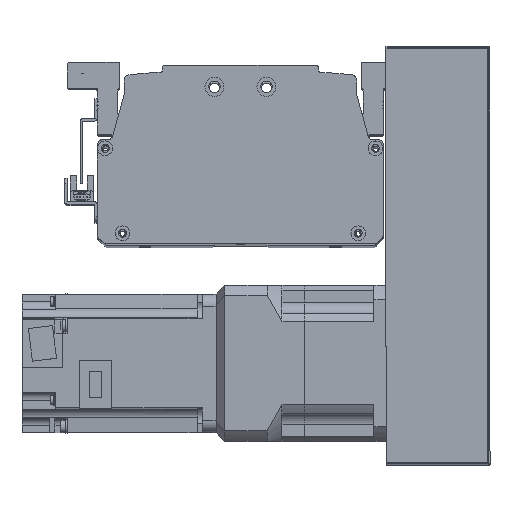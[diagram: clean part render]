
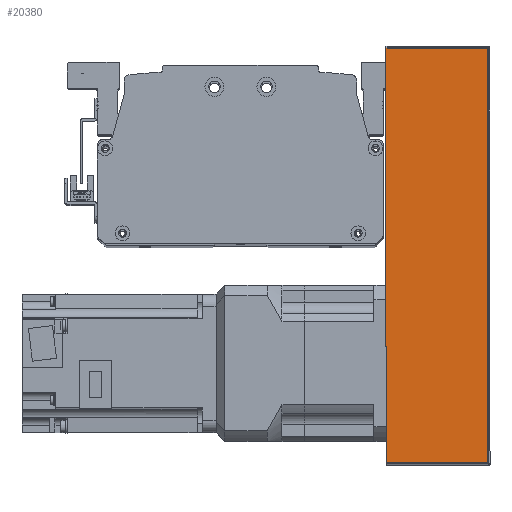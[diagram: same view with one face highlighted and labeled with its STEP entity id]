
A CAD part, top view. The second image highlights one B-rep face of the part: STEP entity #20380.
In plain terms, the highlighted planar face has unit normal (0, 0, 1) as drawn and (0, 1, 0) by its records, which use the part's own axes.
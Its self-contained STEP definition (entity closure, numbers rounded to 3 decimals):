
#542=PLANE('',#22184);
#1673=LINE('',#32345,#3333);
#1692=LINE('',#32429,#3352);
#1694=LINE('',#32439,#3354);
#1695=LINE('',#32441,#3355);
#3333=VECTOR('',#26282,10.);
#3352=VECTOR('',#26395,10.);
#3354=VECTOR('',#26409,10.);
#3355=VECTOR('',#26412,10.);
#5291=FACE_OUTER_BOUND('',#6671,.T.);
#6671=EDGE_LOOP('',(#15992,#15993,#15994,#15995));
#9487=VERTEX_POINT('',#32342);
#9488=VERTEX_POINT('',#32344);
#9505=VERTEX_POINT('',#32423);
#9508=VERTEX_POINT('',#32435);
#11819=EDGE_CURVE('',#9488,#9487,#1673,.T.);
#11862=EDGE_CURVE('',#9505,#9488,#1692,.T.);
#11867=EDGE_CURVE('',#9487,#9508,#1694,.T.);
#11868=EDGE_CURVE('',#9508,#9505,#1695,.T.);
#15992=ORIENTED_EDGE('',*,*,#11862,.T.);
#15993=ORIENTED_EDGE('',*,*,#11819,.T.);
#15994=ORIENTED_EDGE('',*,*,#11867,.T.);
#15995=ORIENTED_EDGE('',*,*,#11868,.T.);
#20380=ADVANCED_FACE('',(#5291),#542,.F.);
#22184=AXIS2_PLACEMENT_3D('',#32448,#26421,#26422);
#26282=DIRECTION('',(-1.,0.,0.));
#26395=DIRECTION('',(0.,0.,-1.));
#26409=DIRECTION('',(0.,0.,1.));
#26412=DIRECTION('',(1.,0.,0.));
#26421=DIRECTION('center_axis',(0.,-1.,0.));
#26422=DIRECTION('ref_axis',(-1.,0.,0.));
#32342=CARTESIAN_POINT('',(-120.,51.,-30.));
#32344=CARTESIAN_POINT('',(120.,51.,-30.));
#32345=CARTESIAN_POINT('',(-121.,51.,-30.));
#32423=CARTESIAN_POINT('',(120.,51.,29.));
#32429=CARTESIAN_POINT('',(120.,51.,0.));
#32435=CARTESIAN_POINT('',(-120.,51.,29.));
#32439=CARTESIAN_POINT('',(-120.,51.,0.));
#32441=CARTESIAN_POINT('',(60.5,51.,29.));
#32448=CARTESIAN_POINT('Origin',(121.,51.,0.));
